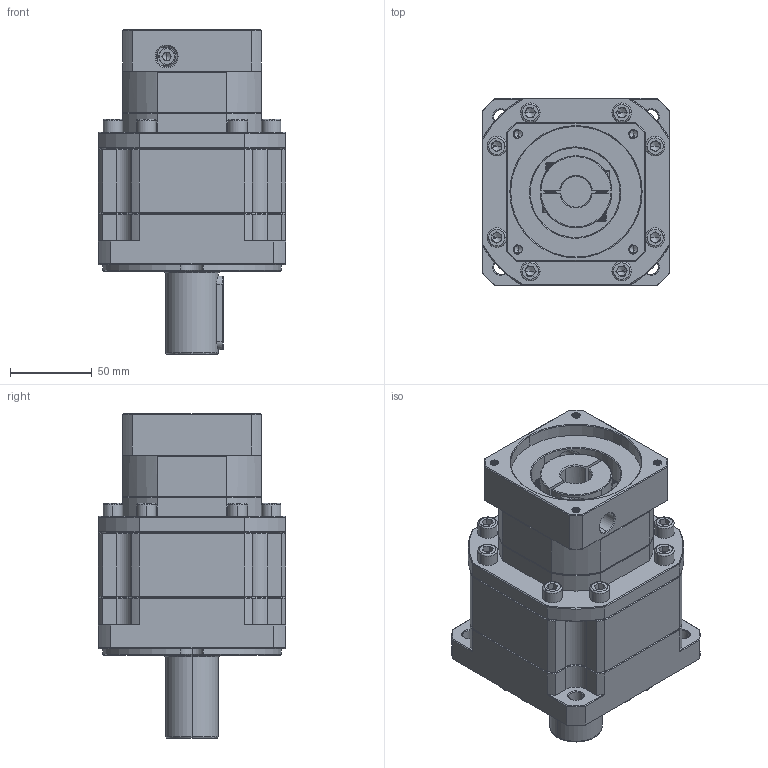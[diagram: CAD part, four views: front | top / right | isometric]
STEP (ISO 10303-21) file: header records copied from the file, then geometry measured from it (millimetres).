
FILE_DESCRIPTION (( 'STEP AP214' ), '1' );
FILE_NAME ('ZB115A-D32-L2-P2-19-80-100-M6.step', '2023-08-26T10:02:33', ( '' ), ( '' ), 'SwSTEP 2.0', 'SolidWorks 2016', '' );
FILE_SCHEMA (( 'AUTOMOTIVE_DESIGN' ));
Length unit declared in the file: millimetre
Products named in the file (1): ZB115A-D32-L2-P2-19-80-100-M6
Bounding box: 115 x 115 x 199 mm (x, y, z)
Volume: 1366083.8 mm3; surface area: 134466.4 mm2
Topology: 5 solids, 6 shells, 2413 faces, 6323 edges, 4012 vertices
Faces by surface type: plane 1190, bspline 427, cylinder 425, cone 356, torus 15
Entity records: 128526 total; most frequent: CARTESIAN_POINT 46247, ORIENTED_EDGE 12570, DIRECTION 9944, EDGE_CURVE 6285, LINE 4040, VECTOR 4040, VERTEX_POINT 4012, AXIS2_PLACEMENT_3D 2952
